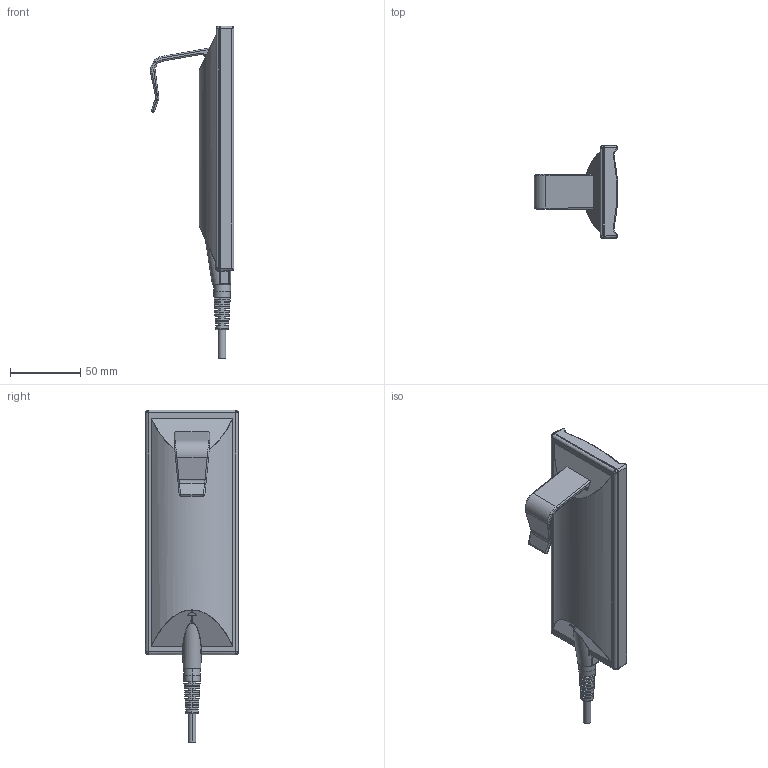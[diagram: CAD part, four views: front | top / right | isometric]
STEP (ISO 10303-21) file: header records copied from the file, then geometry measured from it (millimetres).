
FILE_DESCRIPTION((''),'2;1');
FILE_NAME('HL70','2012-03-01T',('KET'),(''),'PRO/ENGINEER BY PARAMETRIC TECHNOLOGY CORPORATION, 2010280','PRO/ENGINEER BY PARAMETRIC TECHNOLOGY CORPORATION, 2010280','');
FILE_SCHEMA(('CONFIG_CONTROL_DESIGN','SHAPE_APPEARANCE_LAYERS_GROUPS'));
Length unit declared in the file: millimetre
Products named in the file (1): HL70
Bounding box: 59.24 x 66 x 236.16 mm (x, y, z)
Volume: 193070.3 mm3; surface area: 36170.4 mm2
Topology: 1 solids, 1 shells, 542 faces, 1353 edges, 829 vertices
Faces by surface type: plane 183, cylinder 139, torus 102, bspline 87, sphere 20, cone 8, extrusion 3
Entity records: 25080 total; most frequent: CARTESIAN_POINT 8514, ORIENTED_EDGE 2666, DIRECTION 2428, EDGE_CURVE 1333, AXIS2_PLACEMENT_3D 1006, VERTEX_POINT 829, FILL_AREA_STYLE_COLOUR 633, FILL_AREA_STYLE 633
